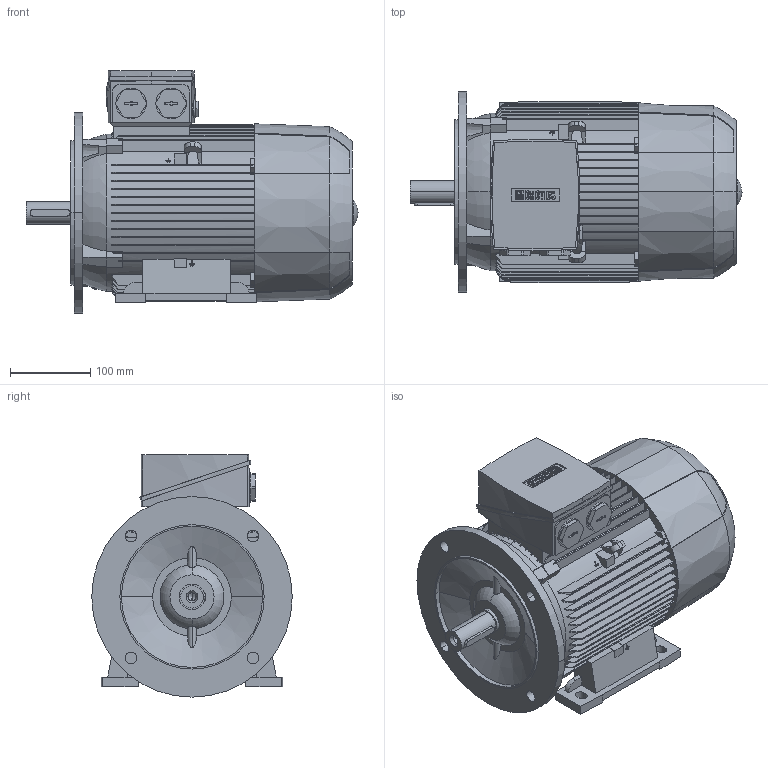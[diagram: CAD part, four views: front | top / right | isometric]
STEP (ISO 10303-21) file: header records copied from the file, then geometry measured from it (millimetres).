
FILE_DESCRIPTION(('STEP AP214'),'1');
FILE_NAME('cctmp_3815748D-6A80-4C11-876F-1C78EAC721FD_2026_05_12_11_07_52_0026_592..stp','2026-05-12T09:07:52',('KiM GmbH'),('CADClick - www.CADClick.com'),'Spatial InterOp 3D',' ','unknown authorization');
FILE_SCHEMA(('AUTOMOTIVE_DESIGN'));
Length unit declared in the file: millimetre
Products named in the file (1): 2026_05_12_11_07_52_0026
Bounding box: 414 x 250 x 302 mm (x, y, z)
Volume: 12847320.6 mm3; surface area: 644719.1 mm2
Topology: 9 solids, 9 shells, 995 faces, 2784 edges, 1840 vertices
Faces by surface type: plane 622, cylinder 227, torus 120, cone 26
Entity records: 45188 total; most frequent: CARTESIAN_POINT 11680, ORIENTED_EDGE 5560, DIRECTION 5027, EDGE_CURVE 2780, VERTEX_POINT 1840, LINE 1739, VECTOR 1739, AXIS2_PLACEMENT_3D 1644
